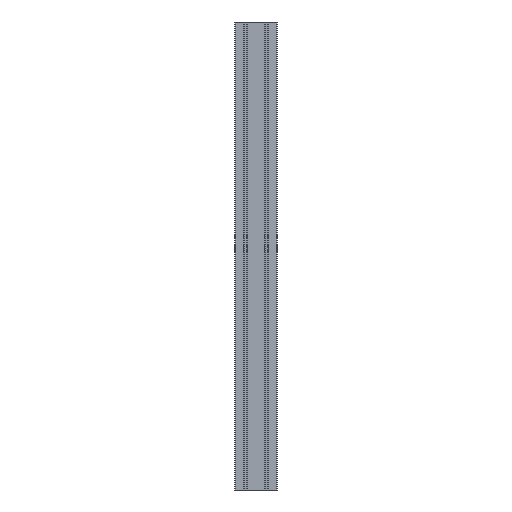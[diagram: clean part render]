
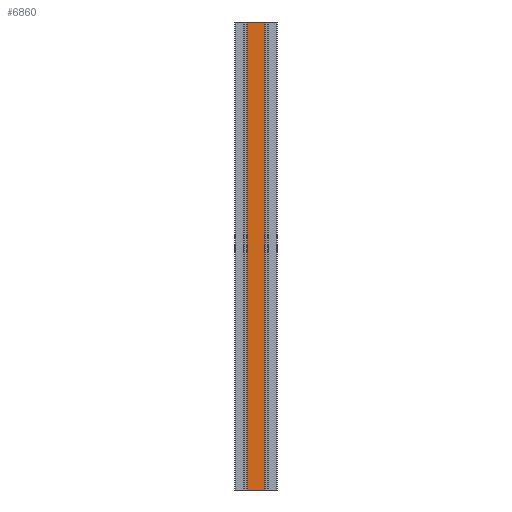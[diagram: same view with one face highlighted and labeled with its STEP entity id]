
A CAD part, left-side view. The second image highlights one B-rep face of the part: STEP entity #6860.
In plain terms, the highlighted planar face has unit normal (-1, 0, 0).
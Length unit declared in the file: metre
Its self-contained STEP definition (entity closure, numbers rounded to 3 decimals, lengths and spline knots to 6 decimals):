
#752=FACE_OUTER_BOUND('',#1106,.T.);
#1106=EDGE_LOOP('',(#5194,#5195,#5196,#5197));
#1632=LINE('',#10992,#2328);
#1633=LINE('',#10995,#2329);
#1634=LINE('',#10997,#2330);
#1635=LINE('',#10998,#2331);
#2328=VECTOR('',#8943,1.);
#2329=VECTOR('',#8946,0.0367);
#2330=VECTOR('',#8947,0.0367);
#2331=VECTOR('',#8948,1.);
#3066=VERTEX_POINT('',#10988);
#3067=VERTEX_POINT('',#10990);
#3068=VERTEX_POINT('',#10994);
#3069=VERTEX_POINT('',#10996);
#3958=EDGE_CURVE('',#3066,#3067,#1632,.T.);
#3959=EDGE_CURVE('',#3066,#3068,#1633,.T.);
#3960=EDGE_CURVE('',#3069,#3067,#1634,.T.);
#3961=EDGE_CURVE('',#3068,#3069,#1635,.T.);
#5194=ORIENTED_EDGE('',*,*,#3959,.F.);
#5195=ORIENTED_EDGE('',*,*,#3958,.T.);
#5196=ORIENTED_EDGE('',*,*,#3960,.F.);
#5197=ORIENTED_EDGE('',*,*,#3961,.F.);
#6563=PLANE('',#7451);
#6860=ADVANCED_FACE('',(#752),#6563,.T.);
#7451=AXIS2_PLACEMENT_3D('',#10993,#8944,#8945);
#8943=DIRECTION('',(0.,0.,1.));
#8944=DIRECTION('center_axis',(-1.,0.,0.));
#8945=DIRECTION('ref_axis',(0.,0.,1.));
#8946=DIRECTION('',(0.,1.,0.));
#8947=DIRECTION('',(0.,-1.,0.));
#8948=DIRECTION('',(0.,0.,1.));
#10988=CARTESIAN_POINT('',(-0.045,-0.01835,0.));
#10990=CARTESIAN_POINT('',(-0.045,-0.01835,1.));
#10992=CARTESIAN_POINT('',(-0.045,-0.01835,0.));
#10993=CARTESIAN_POINT('Origin',(-0.045,0.01835,0.));
#10994=CARTESIAN_POINT('',(-0.045,0.01835,0.));
#10995=CARTESIAN_POINT('',(-0.045,-0.01835,0.));
#10996=CARTESIAN_POINT('',(-0.045,0.01835,1.));
#10997=CARTESIAN_POINT('',(-0.045,0.01835,1.));
#10998=CARTESIAN_POINT('',(-0.045,0.01835,0.));
